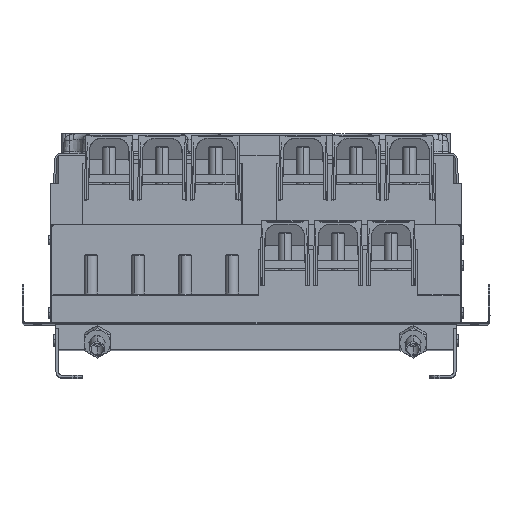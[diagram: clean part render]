
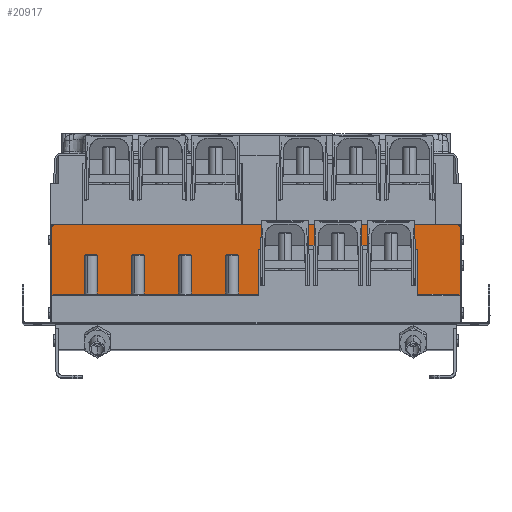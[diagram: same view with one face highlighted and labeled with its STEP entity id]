
A CAD part, top view. The second image highlights one B-rep face of the part: STEP entity #20917.
In plain terms, the highlighted planar face has unit normal (0, 0, 1).
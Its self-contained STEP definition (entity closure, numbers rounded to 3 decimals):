
#252 = CARTESIAN_POINT ( 'NONE',  ( 5.894, 94.2, 179. ) ) ;
#1183 = VECTOR ( 'NONE', #16994, 1000. ) ;
#1519 = CARTESIAN_POINT ( 'NONE',  ( -247., 31., 179. ) ) ;
#2407 = EDGE_CURVE ( 'NONE', #7440, #25479, #83211, .T. ) ;
#3018 = CARTESIAN_POINT ( 'NONE',  ( -44.533, 94.2, 179. ) ) ;
#4160 = CARTESIAN_POINT ( 'NONE',  ( -247., 35., 179. ) ) ;
#4232 = ORIENTED_EDGE ( 'NONE', *, *, #87528, .T. ) ;
#5003 = DIRECTION ( 'NONE',  ( 0., -1., 0. ) ) ;
#5206 = ORIENTED_EDGE ( 'NONE', *, *, #58017, .T. ) ;
#5682 = DIRECTION ( 'NONE',  ( 0.707, -0.707, 0. ) ) ;
#6975 = ORIENTED_EDGE ( 'NONE', *, *, #82245, .F. ) ;
#7440 = VERTEX_POINT ( 'NONE', #252 ) ;
#8600 = ORIENTED_EDGE ( 'NONE', *, *, #8761, .T. ) ;
#8761 = EDGE_CURVE ( 'NONE', #25479, #58718, #92609, .T. ) ;
#8946 = AXIS2_PLACEMENT_3D ( 'NONE', #91029, #39855, #69271 ) ;
#9369 = DIRECTION ( 'NONE',  ( 0.707, 0.707, 0. ) ) ;
#10210 = PLANE ( 'NONE',  #43595 ) ;
#11128 = FACE_OUTER_BOUND ( 'NONE', #29944, .T. ) ;
#11453 = DIRECTION ( 'NONE',  ( 0.017, -1., 0. ) ) ;
#11616 = CARTESIAN_POINT ( 'NONE',  ( -243., 119., 179. ) ) ;
#11864 = CARTESIAN_POINT ( 'NONE',  ( 5.803, 89., 179. ) ) ;
#13356 = EDGE_CURVE ( 'NONE', #68944, #43852, #63541, .T. ) ;
#15477 = EDGE_CURVE ( 'NONE', #47912, #68944, #83280, .T. ) ;
#16603 = CARTESIAN_POINT ( 'NONE',  ( -245., 35., 179. ) ) ;
#16994 = DIRECTION ( 'NONE',  ( 1., 0., 0. ) ) ;
#18966 = VERTEX_POINT ( 'NONE', #85258 ) ;
#19042 = VECTOR ( 'NONE', #11453, 1000. ) ;
#19440 = ORIENTED_EDGE ( 'NONE', *, *, #46298, .F. ) ;
#19826 = EDGE_CURVE ( 'NONE', #18966, #33263, #83800, .T. ) ;
#20417 = EDGE_CURVE ( 'NONE', #58718, #44821, #27134, .T. ) ;
#20865 = DIRECTION ( 'NONE',  ( 0., -1., 0. ) ) ;
#20917 = ADVANCED_FACE ( 'NONE', ( #11128 ), #10210, .T. ) ;
#21798 = VERTEX_POINT ( 'NONE', #53928 ) ;
#21838 = ORIENTED_EDGE ( 'NONE', *, *, #2407, .T. ) ;
#22281 = CARTESIAN_POINT ( 'NONE',  ( -245., 35., 179. ) ) ;
#24524 = DIRECTION ( 'NONE',  ( 1., 0., 0. ) ) ;
#24671 = CARTESIAN_POINT ( 'NONE',  ( -247., 33., 179. ) ) ;
#24893 = LINE ( 'NONE', #48535, #57438 ) ;
#25197 = EDGE_CURVE ( 'NONE', #43966, #85478, #39208, .T. ) ;
#25368 = DIRECTION ( 'NONE',  ( -0.017, -1., 0. ) ) ;
#25479 = VERTEX_POINT ( 'NONE', #60330 ) ;
#26424 = CARTESIAN_POINT ( 'NONE',  ( -243., 119., 179. ) ) ;
#26745 = VERTEX_POINT ( 'NONE', #59577 ) ;
#27134 = LINE ( 'NONE', #86073, #83684 ) ;
#27969 = ORIENTED_EDGE ( 'NONE', *, *, #20417, .T. ) ;
#28175 = CARTESIAN_POINT ( 'NONE',  ( 247., 115., 179. ) ) ;
#28472 = ORIENTED_EDGE ( 'NONE', *, *, #78544, .F. ) ;
#29850 = CARTESIAN_POINT ( 'NONE',  ( 192.514, 89., 179. ) ) ;
#29944 = EDGE_LOOP ( 'NONE', ( #6975, #21838, #8600, #27969, #42584, #58941, #4232, #28472, #19440, #65837, #43671, #58938, #55156, #58646, #5206, #83407 ) ) ;
#31450 = VERTEX_POINT ( 'NONE', #11864 ) ;
#33263 = VERTEX_POINT ( 'NONE', #58892 ) ;
#35375 = CARTESIAN_POINT ( 'NONE',  ( 195.511, 89., 179. ) ) ;
#36741 = EDGE_CURVE ( 'NONE', #21798, #43966, #45971, .T. ) ;
#37843 = DIRECTION ( 'NONE',  ( 0., 0., -1. ) ) ;
#39208 = LINE ( 'NONE', #11616, #41176 ) ;
#39712 = LINE ( 'NONE', #48335, #95266 ) ;
#39855 = DIRECTION ( 'NONE',  ( 0., 0., -1. ) ) ;
#40915 = EDGE_CURVE ( 'NONE', #26745, #31450, #69407, .T. ) ;
#41088 = DIRECTION ( 'NONE',  ( 1., 0., 0. ) ) ;
#41176 = VECTOR ( 'NONE', #41088, 1000. ) ;
#42584 = ORIENTED_EDGE ( 'NONE', *, *, #46661, .T. ) ;
#43595 = AXIS2_PLACEMENT_3D ( 'NONE', #1519, #89898, #82670 ) ;
#43671 = ORIENTED_EDGE ( 'NONE', *, *, #36741, .F. ) ;
#43852 = VERTEX_POINT ( 'NONE', #48872 ) ;
#43966 = VERTEX_POINT ( 'NONE', #26424 ) ;
#44821 = VERTEX_POINT ( 'NONE', #70618 ) ;
#45971 = CIRCLE ( 'NONE', #8946, 4. ) ;
#46117 = DIRECTION ( 'NONE',  ( 1., 0., 0. ) ) ;
#46298 = EDGE_CURVE ( 'NONE', #85478, #59885, #74873, .T. ) ;
#46661 = EDGE_CURVE ( 'NONE', #44821, #18966, #86087, .T. ) ;
#46776 = VECTOR ( 'NONE', #46117, 1000. ) ;
#47871 = DIRECTION ( 'NONE',  ( 0., 1., 0. ) ) ;
#47912 = VERTEX_POINT ( 'NONE', #24671 ) ;
#48335 = CARTESIAN_POINT ( 'NONE',  ( 2.806, 35., 179. ) ) ;
#48535 = CARTESIAN_POINT ( 'NONE',  ( 5.351, 63.129, 179. ) ) ;
#48865 = DIRECTION ( 'NONE',  ( 1., 0., 0. ) ) ;
#48872 = CARTESIAN_POINT ( 'NONE',  ( 2.806, 35., 179. ) ) ;
#52306 = VECTOR ( 'NONE', #93019, 1000. ) ;
#53928 = CARTESIAN_POINT ( 'NONE',  ( -247., 115., 179. ) ) ;
#54790 = CARTESIAN_POINT ( 'NONE',  ( -247., 35., 179. ) ) ;
#55156 = ORIENTED_EDGE ( 'NONE', *, *, #15477, .T. ) ;
#56540 = CARTESIAN_POINT ( 'NONE',  ( 247., 115., 179. ) ) ;
#57292 = CARTESIAN_POINT ( 'NONE',  ( 192.965, 63.129, 179. ) ) ;
#57438 = VECTOR ( 'NONE', #25368, 1000. ) ;
#58017 = EDGE_CURVE ( 'NONE', #43852, #26745, #39712, .T. ) ;
#58646 = ORIENTED_EDGE ( 'NONE', *, *, #13356, .T. ) ;
#58718 = VERTEX_POINT ( 'NONE', #29850 ) ;
#58892 = CARTESIAN_POINT ( 'NONE',  ( 245., 35., 179. ) ) ;
#58938 = ORIENTED_EDGE ( 'NONE', *, *, #75806, .F. ) ;
#58941 = ORIENTED_EDGE ( 'NONE', *, *, #19826, .T. ) ;
#59011 = CARTESIAN_POINT ( 'NONE',  ( -247., 1., 179. ) ) ;
#59577 = CARTESIAN_POINT ( 'NONE',  ( 2.806, 89., 179. ) ) ;
#59866 = CARTESIAN_POINT ( 'NONE',  ( 243., 119., 179. ) ) ;
#59885 = VERTEX_POINT ( 'NONE', #56540 ) ;
#60027 = VECTOR ( 'NONE', #9369, 1000. ) ;
#60057 = CARTESIAN_POINT ( 'NONE',  ( 247., 33., 179. ) ) ;
#60330 = CARTESIAN_POINT ( 'NONE',  ( 192.423, 94.2, 179. ) ) ;
#60409 = VECTOR ( 'NONE', #24524, 1000. ) ;
#63541 = LINE ( 'NONE', #4160, #52306 ) ;
#64861 = LINE ( 'NONE', #28175, #72122 ) ;
#65837 = ORIENTED_EDGE ( 'NONE', *, *, #25197, .F. ) ;
#66766 = DIRECTION ( 'NONE',  ( 1., 0., 0. ) ) ;
#68944 = VERTEX_POINT ( 'NONE', #22281 ) ;
#69271 = DIRECTION ( 'NONE',  ( 1., 0., 0. ) ) ;
#69407 = LINE ( 'NONE', #91172, #60409 ) ;
#69710 = VERTEX_POINT ( 'NONE', #60057 ) ;
#70618 = CARTESIAN_POINT ( 'NONE',  ( 195.511, 89., 179. ) ) ;
#71338 = CARTESIAN_POINT ( 'NONE',  ( 245., 35., 179. ) ) ;
#72122 = VECTOR ( 'NONE', #5003, 1000. ) ;
#74873 = CIRCLE ( 'NONE', #88753, 4. ) ;
#74956 = DIRECTION ( 'NONE',  ( 0., 1., 0. ) ) ;
#75806 = EDGE_CURVE ( 'NONE', #47912, #21798, #82199, .T. ) ;
#76438 = VECTOR ( 'NONE', #74956, 1000. ) ;
#78544 = EDGE_CURVE ( 'NONE', #59885, #69710, #64861, .T. ) ;
#82199 = LINE ( 'NONE', #59011, #76438 ) ;
#82245 = EDGE_CURVE ( 'NONE', #7440, #31450, #24893, .T. ) ;
#82670 = DIRECTION ( 'NONE',  ( 1., 0., 0. ) ) ;
#82752 = CARTESIAN_POINT ( 'NONE',  ( 243., 115., 179. ) ) ;
#83211 = LINE ( 'NONE', #3018, #1183 ) ;
#83280 = LINE ( 'NONE', #16603, #60027 ) ;
#83407 = ORIENTED_EDGE ( 'NONE', *, *, #40915, .T. ) ;
#83684 = VECTOR ( 'NONE', #48865, 1000. ) ;
#83800 = LINE ( 'NONE', #54790, #46776 ) ;
#85258 = CARTESIAN_POINT ( 'NONE',  ( 195.511, 35., 179. ) ) ;
#85478 = VERTEX_POINT ( 'NONE', #59866 ) ;
#86073 = CARTESIAN_POINT ( 'NONE',  ( 190.479, 89., 179. ) ) ;
#86087 = LINE ( 'NONE', #35375, #93364 ) ;
#87528 = EDGE_CURVE ( 'NONE', #33263, #69710, #92163, .T. ) ;
#88753 = AXIS2_PLACEMENT_3D ( 'NONE', #82752, #37843, #66766 ) ;
#89898 = DIRECTION ( 'NONE',  ( 0., 0., 1. ) ) ;
#91029 = CARTESIAN_POINT ( 'NONE',  ( -243., 115., 179. ) ) ;
#91172 = CARTESIAN_POINT ( 'NONE',  ( 2.806, 89., 179. ) ) ;
#92163 = LINE ( 'NONE', #71338, #92278 ) ;
#92278 = VECTOR ( 'NONE', #5682, 1000. ) ;
#92609 = LINE ( 'NONE', #57292, #19042 ) ;
#93019 = DIRECTION ( 'NONE',  ( 1., 0., 0. ) ) ;
#93364 = VECTOR ( 'NONE', #20865, 1000. ) ;
#95266 = VECTOR ( 'NONE', #47871, 1000. ) ;
